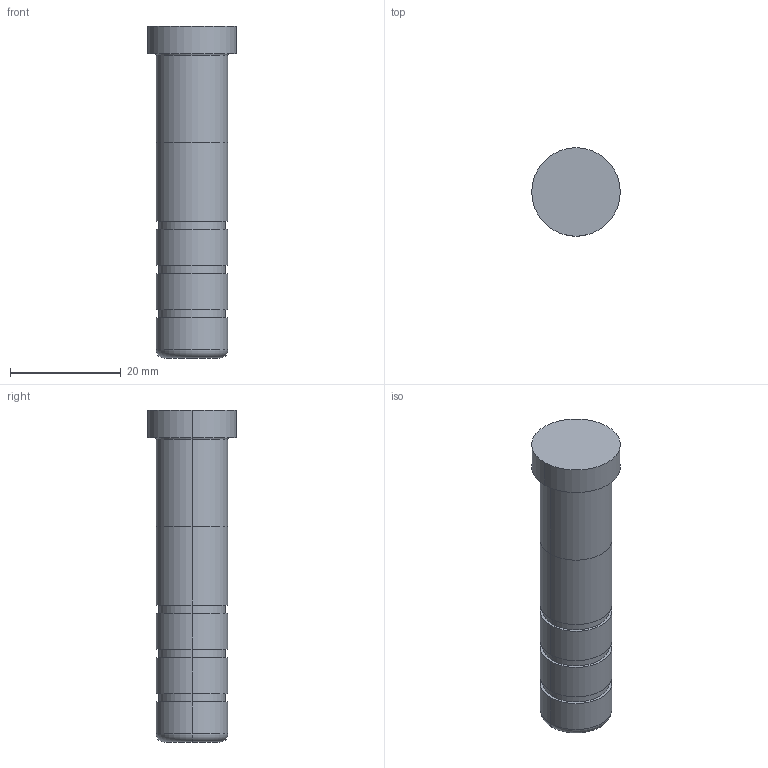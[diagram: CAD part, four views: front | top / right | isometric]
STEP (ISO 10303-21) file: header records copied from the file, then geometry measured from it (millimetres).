
FILE_DESCRIPTION(/* description */ (''),/* implementation_level */ '2;1');
FILE_NAME(/* name */ '3d_sgoh13-60_05225_r00.stp',/* time_stamp */ '2011-01-10T14:11:10+09:00',/* author */ ('MISUMI'),/* organization */ (''),/* preprocessor_version */ 'ST-DEVELOPER v11',/* originating_system */ 'UGS - NX 5.0',/* authorisation */ '');
FILE_SCHEMA (('CONFIG_CONTROL_DESIGN'));
Length unit declared in the file: millimetre
Products named in the file (1): 3d_sgoh13-60_05225_r00
Bounding box: 16 x 16 x 60 mm (x, y, z)
Volume: 8199.1 mm3; surface area: 2971.7 mm2
Topology: 1 solids, 1 shells, 31 faces, 60 edges, 38 vertices
Faces by surface type: cylinder 18, plane 9, torus 4
Entity records: 894 total; most frequent: DIRECTION 166, CARTESIAN_POINT 130, ORIENTED_EDGE 120, AXIS2_PLACEMENT_3D 74, EDGE_CURVE 60, CIRCLE 42, EDGE_LOOP 38, VERTEX_POINT 38
